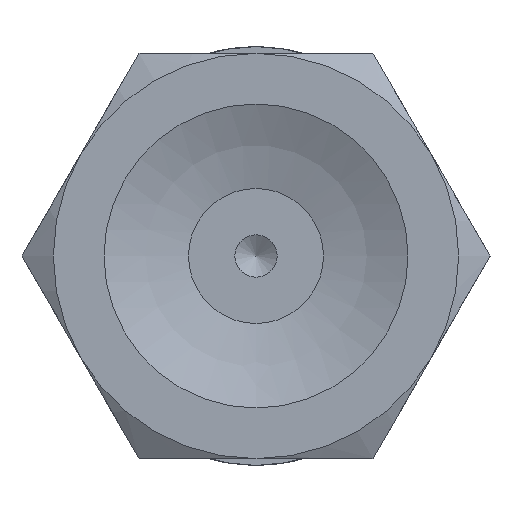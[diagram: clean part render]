
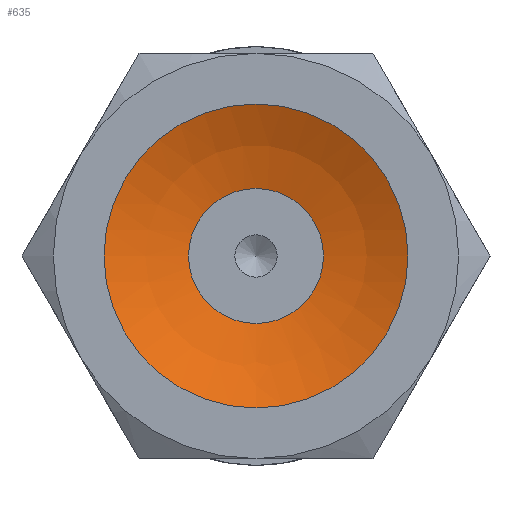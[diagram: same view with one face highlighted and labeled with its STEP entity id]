
A CAD part, front view. The second image highlights one B-rep face of the part: STEP entity #635.
In plain terms, the highlighted spherical face has radius 10.203 mm.
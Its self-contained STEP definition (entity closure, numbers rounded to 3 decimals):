
#635=ADVANCED_FACE('',(#987,#988),#989,.F.);
#987=FACE_OUTER_BOUND('',#1426,.T.);
#988=FACE_OUTER_BOUND('',#1427,.T.);
#989=SPHERICAL_SURFACE('',#1428,10.203);
#1426=EDGE_LOOP('',(#2589));
#1427=EDGE_LOOP('',(#2590));
#1428=AXIS2_PLACEMENT_3D('',#2591,#2592,#2593);
#2589=ORIENTED_EDGE('',*,*,#3157,.T.);
#2590=ORIENTED_EDGE('',*,*,#3146,.F.);
#2591=CARTESIAN_POINT('',(0.,-9.157,0.));
#2592=DIRECTION('',(0.0,-1.0,0.));
#2593=DIRECTION('',(1.0,0.0,0.0));
#3146=EDGE_CURVE('',#3599,#3599,#3600,.T.);
#3157=EDGE_CURVE('',#3621,#3621,#3622,.T.);
#3599=VERTEX_POINT('',#4727);
#3600=CIRCLE('',#4728,2.);
#3621=VERTEX_POINT('',#4749);
#3622=CIRCLE('',#4750,4.5);
#4727=CARTESIAN_POINT('',(0.0,0.848,-2.));
#4728=AXIS2_PLACEMENT_3D('',#5513,#5514,#5515);
#4749=CARTESIAN_POINT('',(0.0,0.,-4.5));
#4750=AXIS2_PLACEMENT_3D('',#5546,#5547,#5548);
#5513=CARTESIAN_POINT('',(0.0,0.848,0.0));
#5514=DIRECTION('',(0.0,-1.0,0.));
#5515=DIRECTION('',(0.0,0.,-1.0));
#5546=CARTESIAN_POINT('',(0.0,0.,0.0));
#5547=DIRECTION('',(0.0,-1.0,0.));
#5548=DIRECTION('',(0.0,0.,-1.0));
